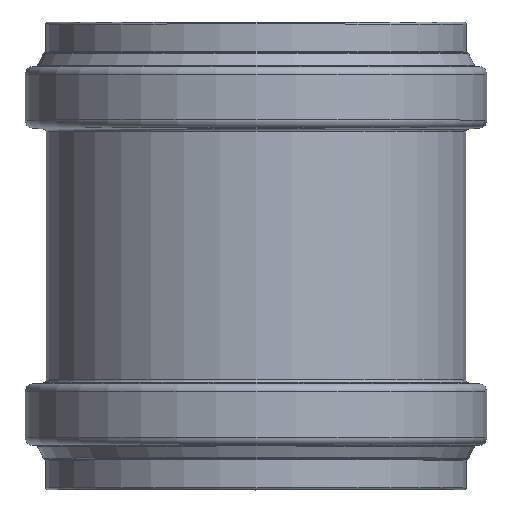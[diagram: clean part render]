
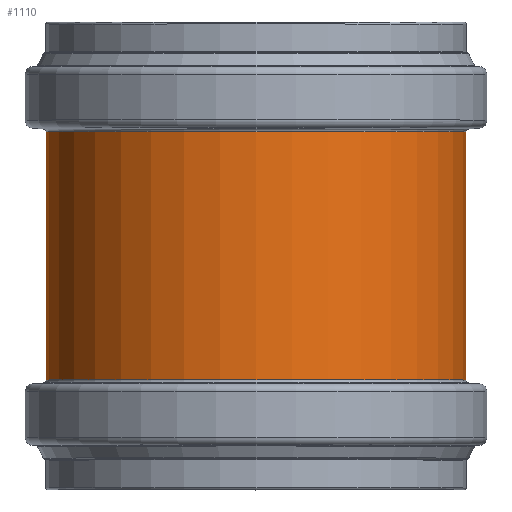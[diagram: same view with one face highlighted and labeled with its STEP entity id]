
A CAD part, top view. The second image highlights one B-rep face of the part: STEP entity #1110.
In plain terms, the highlighted cylindrical face has radius 106.65 mm (diameter 213.3 mm), a full revolution.
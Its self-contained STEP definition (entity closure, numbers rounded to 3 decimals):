
#66=LINE('',#2081,#96);
#96=VECTOR('',#1705,106.65);
#114=CYLINDRICAL_SURFACE('',#1307,106.65);
#166=FACE_OUTER_BOUND('',#235,.T.);
#235=EDGE_LOOP('',(#948,#949,#950,#951,#952,#953));
#359=CIRCLE('',#1305,106.65);
#360=CIRCLE('',#1306,106.65);
#361=CIRCLE('',#1308,106.65);
#362=CIRCLE('',#1309,106.65);
#482=VERTEX_POINT('',#2071);
#483=VERTEX_POINT('',#2073);
#484=VERTEX_POINT('',#2077);
#485=VERTEX_POINT('',#2078);
#642=EDGE_CURVE('',#483,#482,#359,.T.);
#643=EDGE_CURVE('',#482,#483,#360,.T.);
#644=EDGE_CURVE('',#484,#485,#361,.T.);
#645=EDGE_CURVE('',#485,#484,#362,.T.);
#646=EDGE_CURVE('',#485,#483,#66,.T.);
#948=ORIENTED_EDGE('',*,*,#644,.F.);
#949=ORIENTED_EDGE('',*,*,#645,.F.);
#950=ORIENTED_EDGE('',*,*,#646,.T.);
#951=ORIENTED_EDGE('',*,*,#642,.T.);
#952=ORIENTED_EDGE('',*,*,#643,.T.);
#953=ORIENTED_EDGE('',*,*,#646,.F.);
#1110=ADVANCED_FACE('',(#166),#114,.T.);
#1305=AXIS2_PLACEMENT_3D('',#2074,#1695,#1696);
#1306=AXIS2_PLACEMENT_3D('',#2075,#1697,#1698);
#1307=AXIS2_PLACEMENT_3D('',#2076,#1699,#1700);
#1308=AXIS2_PLACEMENT_3D('',#2079,#1701,#1702);
#1309=AXIS2_PLACEMENT_3D('',#2080,#1703,#1704);
#1695=DIRECTION('center_axis',(0.,1.,0.));
#1696=DIRECTION('ref_axis',(1.,0.,0.));
#1697=DIRECTION('center_axis',(0.,1.,0.));
#1698=DIRECTION('ref_axis',(1.,0.,0.));
#1699=DIRECTION('center_axis',(0.,1.,0.));
#1700=DIRECTION('ref_axis',(-1.,0.,0.));
#1701=DIRECTION('center_axis',(0.,1.,0.));
#1702=DIRECTION('ref_axis',(1.,0.,0.));
#1703=DIRECTION('center_axis',(0.,1.,0.));
#1704=DIRECTION('ref_axis',(1.,0.,0.));
#1705=DIRECTION('',(0.,-1.,0.));
#2071=CARTESIAN_POINT('',(0.,-63.079,-106.65));
#2073=CARTESIAN_POINT('',(106.65,-63.079,0.));
#2074=CARTESIAN_POINT('Origin',(0.,-63.079,
0.));
#2075=CARTESIAN_POINT('Origin',(0.,-63.079,
0.));
#2076=CARTESIAN_POINT('Origin',(0.,0.,0.));
#2077=CARTESIAN_POINT('',(0.,63.079,-106.65));
#2078=CARTESIAN_POINT('',(106.65,63.079,0.));
#2079=CARTESIAN_POINT('Origin',(0.,63.079,0.));
#2080=CARTESIAN_POINT('Origin',(0.,63.079,0.));
#2081=CARTESIAN_POINT('',(106.65,0.,0.));
